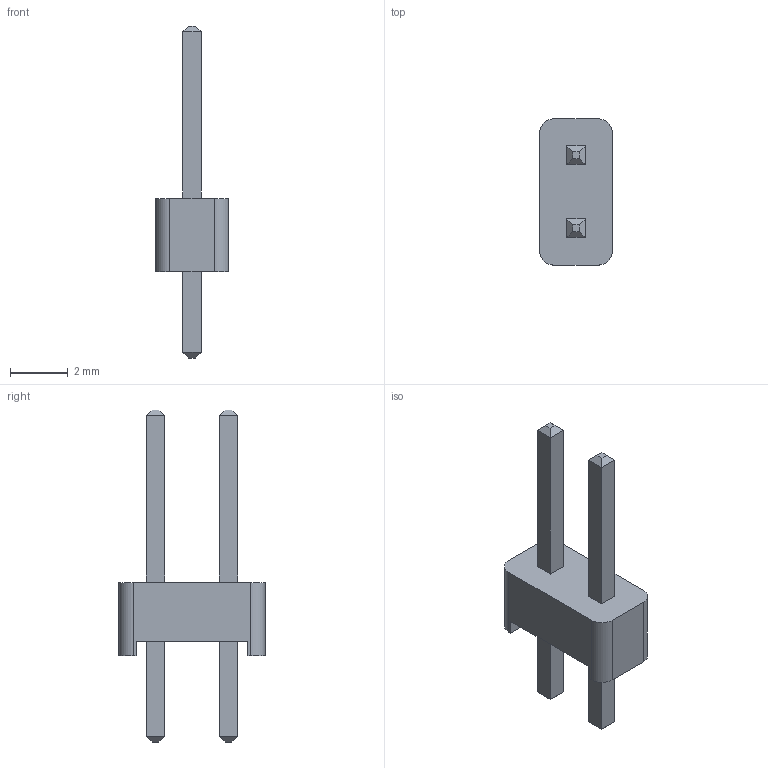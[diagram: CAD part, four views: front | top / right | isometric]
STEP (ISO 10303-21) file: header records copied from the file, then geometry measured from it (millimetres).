
FILE_DESCRIPTION(('FreeCAD Model'),'2;1');
FILE_NAME('Open CASCADE Shape Model','2022-04-06T15:23:25',( 'Engenharia Metaltex'),('Metaltex'), 'Open CASCADE STEP processor 7.5','FreeCAD','Unknown');
FILE_SCHEMA(('AUTOMOTIVE_DESIGN { 1 0 10303 214 1 1 1 1 }'));
Length unit declared in the file: millimetre
Products named in the file (4): 1; Base; Pino1; Pino2
Assembly tree (3 placements, depth 2):
  1
    Base
    Pino1
    Pino2
Bounding box: 2.54 x 5.08 x 11.54 mm (x, y, z)
Volume: 34.9 mm3; surface area: 128.6 mm2
Topology: 3 solids, 3 shells, 50 faces, 116 edges, 72 vertices
Faces by surface type: plane 46, cylinder 4
Entity records: 3001 total; most frequent: CARTESIAN_POINT 498, DIRECTION 460, LINE 332, VECTOR 332, ORIENTED_EDGE 232, PCURVE 232, DEFINITIONAL_REPRESENTATION 232, EDGE_CURVE 116
